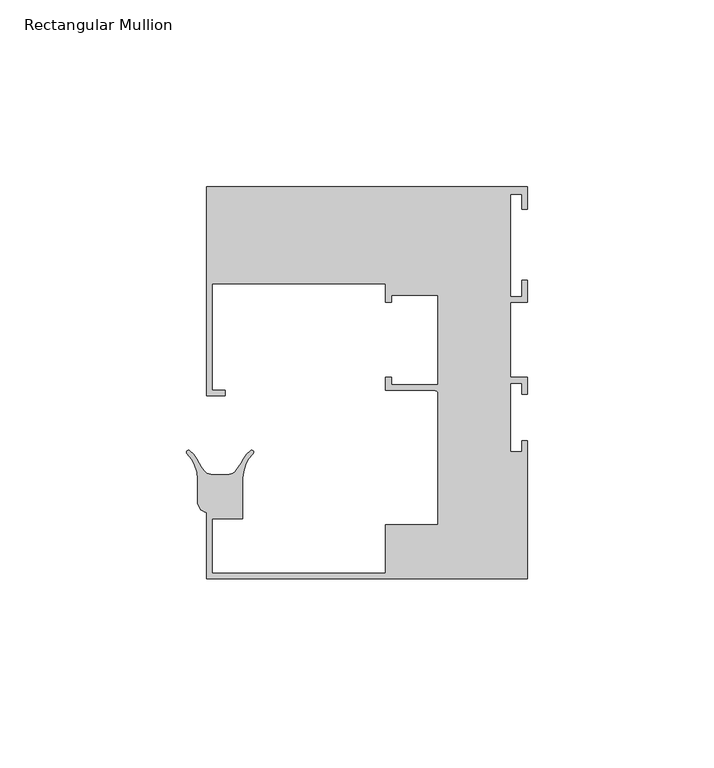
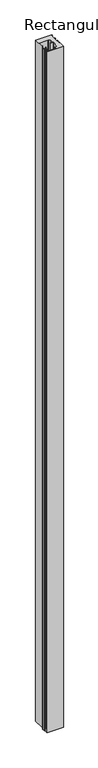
"""IFC4 building model written with IfcOpenShell, lengths in millimetres: member geometry, Rectangular Mullion : Danpal_Airpt_End-Mullion_B1."""

import ifcopenshell
import ifcopenshell.guid

model = None  # the IFC model being written
_history = None  # IfcOwnerHistory: only IFC2X3 demands one
_inside = {}  # id of a spatial element -> (the spatial element, [elements in it])
_under = {}  # id of a project, library or spatial element -> (it, [spatial elements below it])
_declared = {}  # id of a project -> (the project, [libraries it declares])
_typed = {}  # id of a type object -> (the type object, [elements of that type])
_made_of = {}  # id of a material, layer set ... -> (it, [elements and type objects made of it])


def new_model(schema):
    """Start an empty IFC model of exactly this schema.

    Asked for "IFC4X3", IfcOpenShell would pick the latest addendum, in which some entities
    have other attributes; the version numbers below select the first issue.
    IFC2X3 requires an IfcOwnerHistory on every rooted entity: one is made here for all.
    """
    global model, _history
    if schema == "IFC4X3":
        model = ifcopenshell.file(schema_version=(4, 3, 0, 0))
    else:
        model = ifcopenshell.file(schema=schema)
    _inside.clear()
    _under.clear()
    _declared.clear()
    _typed.clear()
    _made_of.clear()
    _history = None
    if model.schema == "IFC2X3":
        org = make("IfcOrganization", Name="unknown")
        user = make(
            "IfcPersonAndOrganization",
            ThePerson=make("IfcPerson", FamilyName="unknown"),
            TheOrganization=org,
        )
        app = make(
            "IfcApplication",
            ApplicationDeveloper=org,
            Version="unknown",
            ApplicationFullName="unknown",
            ApplicationIdentifier="unknown",
        )
        _history = make(
            "IfcOwnerHistory",
            OwningUser=user,
            OwningApplication=app,
            ChangeAction="ADDED",
            CreationDate=0,
        )
    return model


def make(cls, **values):
    """One entity of the class cls with the attributes given. An attribute that is None is left unset."""
    return model.create_entity(
        cls, **{name: value for name, value in values.items() if value is not None}
    )


def rooted(cls, **values):
    """An entity with a GlobalId (a new one), such as an element, a storey or a relation."""
    return make(cls, GlobalId=ifcopenshell.guid.new(), OwnerHistory=_history, **values)


def si_unit(unit_type, name, prefix=None):
    """IfcSIUnit, for example si_unit("LENGTHUNIT", "METRE", prefix="MILLI")."""
    return make("IfcSIUnit", UnitType=unit_type, Prefix=prefix, Name=name)


def assignment(units):
    """IfcUnitAssignment: the units of a project."""
    return None if units is None else make("IfcUnitAssignment", Units=units)


def point(xyz):
    """IfcCartesianPoint."""
    return None if xyz is None else make("IfcCartesianPoint", Coordinates=xyz)


def direction(xyz):
    """IfcDirection."""
    return None if xyz is None else make("IfcDirection", DirectionRatios=xyz)


def frame(location, z_axis=None, x_axis=None):
    """IfcAxis2Placement3D, a coordinate frame: its origin and axes. An axis left out is left unset."""
    return make(
        "IfcAxis2Placement3D",
        Location=point(location),
        Axis=direction(z_axis),
        RefDirection=direction(x_axis),
    )


def frame_2d(location, x_axis=None):
    """IfcAxis2Placement2D, a coordinate frame in the plane: its origin and x axis."""
    return make(
        "IfcAxis2Placement2D", Location=point(location), RefDirection=direction(x_axis)
    )


def origin():
    """The frame at (0, 0, 0) with its axes left unset."""
    return frame((0.0, 0.0, 0.0))


def place(relative_to, where):
    """IfcLocalPlacement: puts the frame where relative to a parent placement (None: the world)."""
    return make(
        "IfcLocalPlacement", PlacementRelTo=relative_to, RelativePlacement=where
    )


def context(
    kind, dimensions, precision=None, world=None, true_north=None, identifier=None
):
    """IfcGeometricRepresentationContext, for example the 3D "Model" context."""
    return make(
        "IfcGeometricRepresentationContext",
        ContextIdentifier=identifier,
        ContextType=kind,
        CoordinateSpaceDimension=dimensions,
        Precision=precision,
        WorldCoordinateSystem=world,
        TrueNorth=true_north,
    )


def project(units=None, contexts=None):
    """IfcProject with its units and contexts."""
    return rooted(
        "IfcProject",
        Name="project",
        RepresentationContexts=contexts,
        UnitsInContext=assignment(units),
    )


def spatial(cls, under=None, at=None, **own):
    """A site, building, storey or space (cls), placed at a placement, below another one or the project."""
    s = rooted(cls, ObjectPlacement=at, **own)
    if under is not None:
        _under.setdefault(under.id(), (under, []))[1].append(s)
    return s


def polyline(points):
    """IfcPolyline through the points."""
    return make("IfcPolyline", Points=[point(p) for p in points])


def circle_curve(where, radius):
    """IfcCircle in the frame where."""
    return make("IfcCircle", Position=where, Radius=radius)


def trimmed(basis, trim1, trim2, sense, master):
    """IfcTrimmedCurve: the piece of a basis curve between two trims."""
    return make(
        "IfcTrimmedCurve",
        BasisCurve=basis,
        Trim1=trim1,
        Trim2=trim2,
        SenseAgreement=sense,
        MasterRepresentation=master,
    )


def segment(curve, same_sense, transition):
    """IfcCompositeCurveSegment."""
    return make(
        "IfcCompositeCurveSegment",
        Transition=transition,
        SameSense=same_sense,
        ParentCurve=curve,
    )


def composite_curve(segments, self_intersect=None):
    """IfcCompositeCurve: segments joined end to end."""
    return make("IfcCompositeCurve", Segments=segments, SelfIntersect=self_intersect)


def outline(outer, holes=None, kind="AREA"):
    """IfcArbitraryClosedProfileDef: a profile drawn as a closed curve; with holes, ...WithVoids."""
    if holes is None:
        return make("IfcArbitraryClosedProfileDef", ProfileType=kind, OuterCurve=outer)
    return make(
        "IfcArbitraryProfileDefWithVoids",
        ProfileType=kind,
        OuterCurve=outer,
        InnerCurves=holes,
    )


def extrude(swept, where, along, depth):
    """IfcExtrudedAreaSolid: the profile swept, set in the frame where, extruded along a direction by depth."""
    return make(
        "IfcExtrudedAreaSolid",
        SweptArea=swept,
        Position=where,
        ExtrudedDirection=direction(along),
        Depth=depth,
    )


def shape(context_of_items, identifier, shape_type, items):
    """IfcShapeRepresentation: the items that make up one representation, for example the "Body"."""
    return make(
        "IfcShapeRepresentation",
        ContextOfItems=context_of_items,
        RepresentationIdentifier=identifier,
        RepresentationType=shape_type,
        Items=items,
    )


def source(mapping_origin, context_of_items, identifier, shape_type, items):
    """IfcRepresentationMap: a shape defined once, which mapped items show again and again."""
    return make(
        "IfcRepresentationMap",
        MappingOrigin=mapping_origin,
        MappedRepresentation=shape(context_of_items, identifier, shape_type, items),
    )


def transform(
    local_origin,
    x_axis=None,
    y_axis=None,
    z_axis=None,
    scale=None,
    scale2=None,
    scale3=None,
    uniform=True,
):
    """IfcCartesianTransformationOperator3D, or its non-uniform kind. x_axis, y_axis, z_axis: its Axis1, 2, 3."""
    if uniform:
        return make(
            "IfcCartesianTransformationOperator3D",
            Axis1=direction(x_axis),
            Axis2=direction(y_axis),
            LocalOrigin=point(local_origin),
            Scale=scale,
            Axis3=direction(z_axis),
        )
    return make(
        "IfcCartesianTransformationOperator3DnonUniform",
        Axis1=direction(x_axis),
        Axis2=direction(y_axis),
        LocalOrigin=point(local_origin),
        Scale=scale,
        Axis3=direction(z_axis),
        Scale2=scale2,
        Scale3=scale3,
    )


def mapped(mapping_source, mapping_target):
    """IfcMappedItem: shows the shape of a source again, moved by a transform."""
    return make(
        "IfcMappedItem", MappingSource=mapping_source, MappingTarget=mapping_target
    )


def made_of(thing, what):
    """Note that an element or type object is made of a material, layer set ...; save() writes the relation."""
    if what is not None:
        _made_of.setdefault(what.id(), (what, []))[1].append(thing)
    return thing


def element(
    cls,
    number,
    at=None,
    inside=None,
    cuts=None,
    type_object=None,
    material=None,
    context=None,
    identifier="Body",
    shape_type=None,
    held_by="IfcProductDefinitionShape",
    body=None,
    shapes=None,
    **own,
):
    """One element of the class cls, such as IfcWall. Its Tag is "e" and its number.

    at: its placement. inside: the storey or other place that contains it. cuts: it is an
    opening in that element (IfcRelVoidsElement). A single representation is given by context,
    identifier, shape_type and body (its items); several are given by shapes. held_by: the class
    of the entity that holds the representations. save() writes the other relations.
    """
    e = rooted(cls, Tag="e%d" % number, ObjectPlacement=at, **own)
    if body is not None:
        shapes = [shape(context, identifier, shape_type, body)]
    if shapes is not None:
        e.Representation = make(held_by, Representations=shapes)
    if inside is not None:
        _inside.setdefault(inside.id(), (inside, []))[1].append(e)
    if cuts is not None:
        rooted(
            "IfcRelVoidsElement", RelatingBuildingElement=cuts, RelatedOpeningElement=e
        )
    if type_object is not None:
        _typed.setdefault(type_object.id(), (type_object, []))[1].append(e)
    return made_of(e, material)


def aggregate(whole, parts):
    """IfcRelAggregates: a whole, such as a stair, and the parts it consists of."""
    return rooted("IfcRelAggregates", RelatingObject=whole, RelatedObjects=parts)


def save(model, path):
    """Write the relations noted so far, then the file.

    IfcRelAggregates (storeys below a building ...), IfcRelContainedInSpatialStructure (elements
    in a storey), IfcRelDefinesByType, IfcRelAssociatesMaterial and IfcRelDeclares: one each for
    every whole, place, type object, material and project.
    """
    for whole, parts in _under.values():
        aggregate(whole, parts)
    for where, things in _inside.values():
        rooted(
            "IfcRelContainedInSpatialStructure",
            RelatedElements=things,
            RelatingStructure=where,
        )
    for kind, things in _typed.values():
        rooted("IfcRelDefinesByType", RelatedObjects=things, RelatingType=kind)
    for what, things in _made_of.values():
        rooted("IfcRelAssociatesMaterial", RelatedObjects=things, RelatingMaterial=what)
    for by, libraries in _declared.values():
        rooted("IfcRelDeclares", RelatingContext=by, RelatedDefinitions=libraries)
    model.write(path)


def rectangular_mullion_535d45c2(model_context):
    return source(origin(), model_context, "Body", "SweptSolid", [
        extrude(outline(composite_curve([segment(polyline([(-84.5, 44.249979), (-84.5, 15.7500001), (-81.0, 15.7500001), (-81.0, 14.2500001), (-86.0, 14.2500001), (-86.0, 70.2500001), (0.0, 70.2500001), (0.0, 64.2500001), (-1.5, 64.2500001), (-1.5, 68.2500001), (-4.5, 68.2500001), (-4.5, 40.7500001), (-1.5180937, 40.7500001), (-1.5180937, 45.2500001), (-0.0180937, 45.2500001), (-0.0180937, 39.2500001), (-4.5, 39.2500001), (-4.5, 19.25), (-0.0180922, 19.25), (-0.0180922, 14.65), (-1.5180922, 14.65), (-1.5180922, 17.65), (-4.5180922, 17.65), (-4.5180922, -0.75), (-1.5180922, -0.75), (-1.5180922, 2.25), (-0.0180922, 2.25), (-0.0180922, -34.75), (-86.0180914, -34.75), (-86.0180914, -17.0365625)]), True, "CONTINUOUS"), segment(trimmed(circle_curve(frame_2d((-85.366716, -14.1081309)), 3.0000002), [point((-86.0180914, -17.0365625))], [point((-88.3666989, -14.1183419))], False, "CARTESIAN"), True, "CONTINUOUS"), segment(polyline([(-88.3666989, -14.1183419), (-88.3666989, -8.1181379)]), True, "CONTINUOUS"), segment(trimmed(circle_curve(frame_2d((-98.3666403, -8.1523787)), 10.0), [point((-88.3666989, -8.1181379))], [point((-91.1789286, -1.1999114))], True, "CARTESIAN"), True, "CONTINUOUS"), segment(trimmed(circle_curve(frame_2d((-90.8194227, -0.8521716)), 0.5001675), [point((-91.1789286, -1.1999114))], [point((-90.4970116, -0.4697862))], False, "CARTESIAN"), True, "CONTINUOUS"), segment(trimmed(circle_curve(frame_2d((-96.9430732, -8.114934)), 9.9999998), [point((-90.4970116, -0.4697862))], [point((-87.9289412, -3.785336))], False, "CARTESIAN"), True, "CONTINUOUS"), segment(trimmed(circle_curve(frame_2d((-78.9148092, 0.544262)), 9.9999997), [point((-87.9289412, -3.785336))], [point((-86.6990305, -5.7331494))], True, "CARTESIAN"), True, "CONTINUOUS"), segment(trimmed(circle_curve(frame_2d((-84.363764, -3.8499259)), 3.0), [point((-86.6990305, -5.7331494))], [point((-84.363764, -6.8499259))], True, "CARTESIAN"), True, "CONTINUOUS"), segment(polyline([(-84.363764, -6.8499259), (-80.32512, -6.8499259)]), True, "CONTINUOUS"), segment(trimmed(circle_curve(frame_2d((-80.32512, -3.8499259)), 3.0), [point((-80.32512, -6.8499259))], [point((-77.9898528, -5.7331484))], True, "CARTESIAN"), True, "CONTINUOUS"), segment(trimmed(circle_curve(frame_2d((-85.7740768, 0.5442599)), 10.0), [point((-77.9898528, -5.7331484))], [point((-76.759944, -3.7853369))], True, "CARTESIAN"), True, "CONTINUOUS"), segment(trimmed(circle_curve(frame_2d((-67.7458114, -8.1149337)), 9.9999997), [point((-76.759944, -3.7853369))], [point((-74.1944462, -0.4719563))], False, "CARTESIAN"), True, "CONTINUOUS"), segment(trimmed(circle_curve(frame_2d((-73.8718016, -0.8543575)), 0.5003301), [point((-74.1944462, -0.4719563))], [point((-73.5120728, -1.2021009))], False, "CARTESIAN"), True, "CONTINUOUS"), segment(trimmed(circle_curve(frame_2d((-66.322244, -8.1523787)), 10.0), [point((-73.5120728, -1.2021009))], [point((-76.3180945, -7.8643287))], True, "CARTESIAN"), True, "CONTINUOUS"), segment(polyline([(-76.3180945, -7.8643287), (-76.3180945, -18.6499969), (-84.5180945, -18.6499969), (-84.5180945, -33.2499969), (-38.0180899, -33.2499969), (-38.0180899, -20.2499969), (-23.9180899, -20.2499969), (-23.9180899, 14.698377)]), True, "CONTINUOUS"), segment(trimmed(circle_curve(frame_2d((-24.969716, 14.698377)), 1.0516261), [point((-23.9180899, 14.698377))], [point((-24.969716, 15.7500031))], True, "CARTESIAN"), True, "CONTINUOUS"), segment(polyline([(-24.969716, 15.7500031), (-38.0180899, 15.7500031), (-38.0180899, 19.2500031), (-36.4180899, 19.2500031), (-36.4180899, 17.2500031), (-23.9180899, 17.2500031), (-23.9180899, 41.2500001), (-36.4, 41.2500001), (-36.4, 39.2500001), (-38.0, 39.2500001), (-38.0, 44.249979), (-84.5, 44.249979)]), True, "CONTINUOUS")], self_intersect=False)), frame((0.0, 0.0, -3817.3608197), z_axis=(0.0, 0.0, 1.0), x_axis=(1.0, 0.0, 0.0)), (0.0, 0.0, 1.0), 3817.3608197),
    ])


if __name__ == "__main__":
    model = new_model("IFC4")
    model_context = context("Model", 3, world=origin())
    ifc_project = project(units=[si_unit("LENGTHUNIT", "METRE", prefix="MILLI")], contexts=[model_context])
    site = spatial("IfcSite", under=ifc_project)
    building = spatial("IfcBuilding", under=site)
    placement = place(None, origin())
    rectangular_mullion_shape = rectangular_mullion_535d45c2(model_context)
    element("IfcMember", 1, ObjectType="Rectangular Mullion : Danpal_Airpt_End-Mullion_B1", at=placement, inside=building, context=model_context, shape_type="MappedRepresentation", body=[
        mapped(rectangular_mullion_shape, transform((0.0, 0.0, 0.0), x_axis=(1.0, 0.0, 0.0), y_axis=(0.0, 1.0, 0.0), z_axis=(0.0, 0.0, 1.0))),
    ])
    save(model, "model.ifc")
